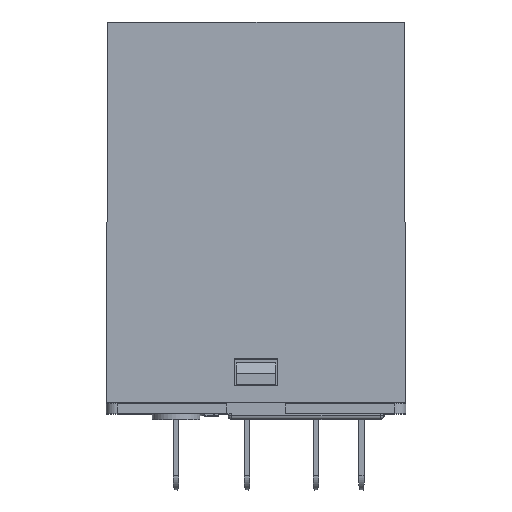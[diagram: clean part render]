
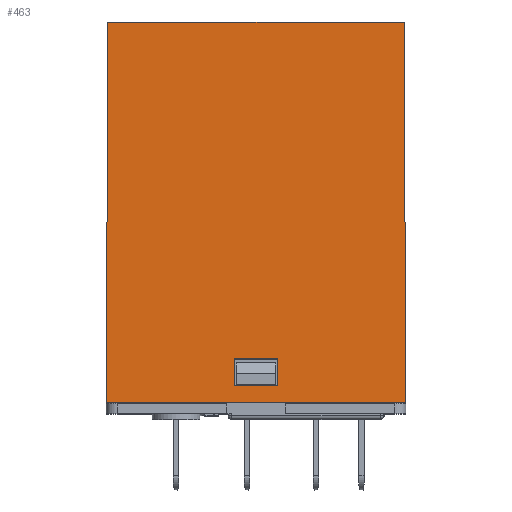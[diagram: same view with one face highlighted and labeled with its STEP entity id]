
A CAD part, top view. The second image highlights one B-rep face of the part: STEP entity #463.
In plain terms, the highlighted planar face has unit normal (0, 0.004, 1).
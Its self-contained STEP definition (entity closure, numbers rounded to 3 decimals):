
#289 = LINE ( 'NONE', #10746, #14868 ) ;
#463 = ADVANCED_FACE ( 'NONE', ( #15315, #37557 ), #23493, .T. ) ;
#540 = VECTOR ( 'NONE', #35164, 1000. ) ;
#2469 = CARTESIAN_POINT ( 'NONE',  ( 13.5, 0.966, 10.5 ) ) ;
#2937 = CARTESIAN_POINT ( 'NONE',  ( 13.5, 2.466, 10.493 ) ) ;
#3241 = DIRECTION ( 'NONE',  ( 0., 0.004, 1. ) ) ;
#3364 = CARTESIAN_POINT ( 'NONE',  ( -13.5, 0.966, 10.5 ) ) ;
#3438 = CARTESIAN_POINT ( 'NONE',  ( 1.95, 0.966, 10.5 ) ) ;
#5367 = DIRECTION ( 'NONE',  ( 1., 0., 0. ) ) ;
#6036 = CARTESIAN_POINT ( 'NONE',  ( -13.351, 35.266, 10.35 ) ) ;
#6489 = VECTOR ( 'NONE', #14629, 1000. ) ;
#7671 = LINE ( 'NONE', #11658, #36766 ) ;
#7781 = VERTEX_POINT ( 'NONE', #32465 ) ;
#8064 = ORIENTED_EDGE ( 'NONE', *, *, #14856, .F. ) ;
#8271 = LINE ( 'NONE', #8995, #540 ) ;
#8696 = ORIENTED_EDGE ( 'NONE', *, *, #35713, .T. ) ;
#8995 = CARTESIAN_POINT ( 'NONE',  ( 1.95, 4.966, 10.483 ) ) ;
#9662 = VERTEX_POINT ( 'NONE', #30254 ) ;
#9721 = EDGE_LOOP ( 'NONE', ( #16507, #30356, #29397, #15866 ) ) ;
#9942 = CARTESIAN_POINT ( 'NONE',  ( -1.95, 4.966, 10.483 ) ) ;
#10746 = CARTESIAN_POINT ( 'NONE',  ( -1.95, 0.966, 10.5 ) ) ;
#11658 = CARTESIAN_POINT ( 'NONE',  ( 13.5, 0.966, 10.5 ) ) ;
#11875 = VERTEX_POINT ( 'NONE', #9942 ) ;
#12502 = VERTEX_POINT ( 'NONE', #36902 ) ;
#13017 = EDGE_CURVE ( 'NONE', #23499, #12502, #30141, .T. ) ;
#13674 = DIRECTION ( 'NONE',  ( 0., 1., -0.004 ) ) ;
#14229 = LINE ( 'NONE', #2937, #6489 ) ;
#14629 = DIRECTION ( 'NONE',  ( -1., 0., 0. ) ) ;
#14815 = CARTESIAN_POINT ( 'NONE',  ( 13.5, 0.966, 10.5 ) ) ;
#14856 = EDGE_CURVE ( 'NONE', #24538, #9662, #30399, .T. ) ;
#14868 = VECTOR ( 'NONE', #13674, 1000. ) ;
#15315 = FACE_OUTER_BOUND ( 'NONE', #34418, .T. ) ;
#15456 = VERTEX_POINT ( 'NONE', #3364 ) ;
#15553 = VECTOR ( 'NONE', #23811, 1000. ) ;
#15866 = ORIENTED_EDGE ( 'NONE', *, *, #22896, .T. ) ;
#16507 = ORIENTED_EDGE ( 'NONE', *, *, #19733, .F. ) ;
#17355 = VECTOR ( 'NONE', #36239, 1000. ) ;
#18352 = CARTESIAN_POINT ( 'NONE',  ( -1.95, 2.466, 10.493 ) ) ;
#18577 = AXIS2_PLACEMENT_3D ( 'NONE', #14815, #3241, #23621 ) ;
#18833 = CARTESIAN_POINT ( 'NONE',  ( -13.499, 1.084, 10.499 ) ) ;
#19222 = EDGE_CURVE ( 'NONE', #12502, #35861, #14229, .T. ) ;
#19733 = EDGE_CURVE ( 'NONE', #23499, #11875, #8271, .T. ) ;
#20002 = EDGE_CURVE ( 'NONE', #24538, #15456, #25140, .T. ) ;
#21457 = ORIENTED_EDGE ( 'NONE', *, *, #29131, .F. ) ;
#22896 = EDGE_CURVE ( 'NONE', #35861, #11875, #289, .T. ) ;
#23493 = PLANE ( 'NONE',  #18577 ) ;
#23499 = VERTEX_POINT ( 'NONE', #31151 ) ;
#23621 = DIRECTION ( 'NONE',  ( 1., 0., 0. ) ) ;
#23742 = ORIENTED_EDGE ( 'NONE', *, *, #20002, .T. ) ;
#23811 = DIRECTION ( 'NONE',  ( 0., -1., 0.004 ) ) ;
#24538 = VERTEX_POINT ( 'NONE', #36754 ) ;
#25140 = LINE ( 'NONE', #18833, #17355 ) ;
#29131 = EDGE_CURVE ( 'NONE', #9662, #7781, #7671, .T. ) ;
#29397 = ORIENTED_EDGE ( 'NONE', *, *, #19222, .T. ) ;
#29418 = LINE ( 'NONE', #2469, #36180 ) ;
#29498 = VECTOR ( 'NONE', #32249, 1000. ) ;
#30141 = LINE ( 'NONE', #3438, #15553 ) ;
#30254 = CARTESIAN_POINT ( 'NONE',  ( 13.35, 35.266, 10.35 ) ) ;
#30356 = ORIENTED_EDGE ( 'NONE', *, *, #13017, .T. ) ;
#30399 = LINE ( 'NONE', #6036, #29498 ) ;
#31151 = CARTESIAN_POINT ( 'NONE',  ( 1.95, 4.966, 10.483 ) ) ;
#32249 = DIRECTION ( 'NONE',  ( 1., 0., 0. ) ) ;
#32465 = CARTESIAN_POINT ( 'NONE',  ( 13.5, 0.966, 10.5 ) ) ;
#34418 = EDGE_LOOP ( 'NONE', ( #21457, #8064, #23742, #8696 ) ) ;
#34898 = DIRECTION ( 'NONE',  ( 0.004, -1., 0.004 ) ) ;
#35164 = DIRECTION ( 'NONE',  ( -1., 0., 0. ) ) ;
#35713 = EDGE_CURVE ( 'NONE', #15456, #7781, #29418, .T. ) ;
#35861 = VERTEX_POINT ( 'NONE', #18352 ) ;
#36180 = VECTOR ( 'NONE', #5367, 1000. ) ;
#36239 = DIRECTION ( 'NONE',  ( -0.004, -1., 0.004 ) ) ;
#36754 = CARTESIAN_POINT ( 'NONE',  ( -13.35, 35.266, 10.35 ) ) ;
#36766 = VECTOR ( 'NONE', #34898, 1000. ) ;
#36902 = CARTESIAN_POINT ( 'NONE',  ( 1.95, 2.466, 10.493 ) ) ;
#37557 = FACE_BOUND ( 'NONE', #9721, .T. ) ;
